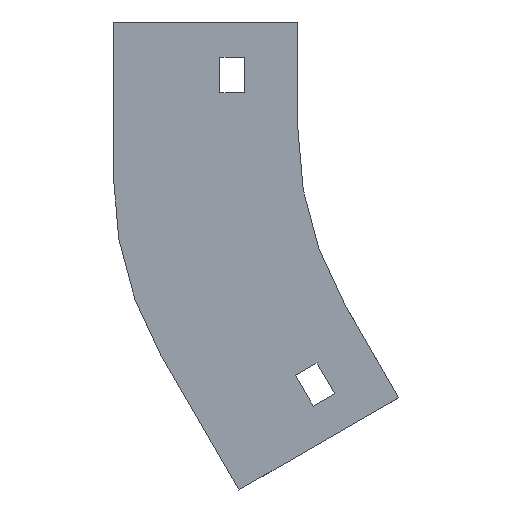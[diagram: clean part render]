
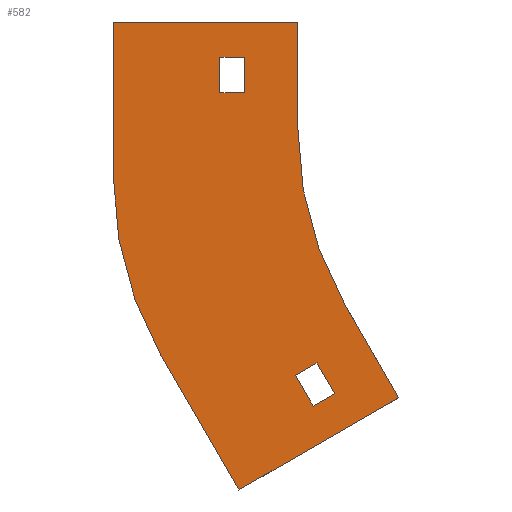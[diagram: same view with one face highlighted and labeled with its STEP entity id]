
A CAD part, left-side view. The second image highlights one B-rep face of the part: STEP entity #582.
In plain terms, the highlighted planar face has unit normal (-1, 0, 0).
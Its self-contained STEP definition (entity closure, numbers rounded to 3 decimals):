
#1 = VERTEX_POINT ( 'NONE', #563 ) ;
#7 = ORIENTED_EDGE ( 'NONE', *, *, #16, .T. ) ;
#14 = VERTEX_POINT ( 'NONE', #1224 ) ;
#16 = EDGE_CURVE ( 'NONE', #413, #615, #158, .T. ) ;
#28 = CARTESIAN_POINT ( 'NONE',  ( -302., -4.345, -108.321 ) ) ;
#68 = VECTOR ( 'NONE', #594, 1000. ) ;
#75 = EDGE_CURVE ( 'NONE', #431, #965, #166, .T. ) ;
#81 = ORIENTED_EDGE ( 'NONE', *, *, #187, .T. ) ;
#87 = CARTESIAN_POINT ( 'NONE',  ( -302., 52., 0. ) ) ;
#100 = LINE ( 'NONE', #560, #1124 ) ;
#111 = VECTOR ( 'NONE', #856, 1000. ) ;
#152 = EDGE_CURVE ( 'NONE', #279, #1371, #195, .T. ) ;
#158 = LINE ( 'NONE', #500, #68 ) ;
#165 = ORIENTED_EDGE ( 'NONE', *, *, #918, .T. ) ;
#166 = LINE ( 'NONE', #793, #422 ) ;
#168 = EDGE_CURVE ( 'NONE', #1, #710, #1379, .T. ) ;
#171 = DIRECTION ( 'NONE',  ( 1., 0., 0. ) ) ;
#176 = VECTOR ( 'NONE', #1278, 1000. ) ;
#180 = PLANE ( 'NONE',  #618 ) ;
#187 = EDGE_CURVE ( 'NONE', #615, #437, #948, .T. ) ;
#193 = VERTEX_POINT ( 'NONE', #87 ) ;
#194 = VECTOR ( 'NONE', #541, 1000. ) ;
#195 = LINE ( 'NONE', #623, #751 ) ;
#199 = CIRCLE ( 'NONE', #390, 100. ) ;
#228 = EDGE_CURVE ( 'NONE', #437, #14, #1360, .T. ) ;
#246 = VECTOR ( 'NONE', #525, 1000. ) ;
#255 = DIRECTION ( 'NONE',  ( 0., -0.5, -0.866 ) ) ;
#271 = ORIENTED_EDGE ( 'NONE', *, *, #317, .F. ) ;
#279 = VERTEX_POINT ( 'NONE', #1391 ) ;
#317 = EDGE_CURVE ( 'NONE', #530, #279, #344, .T. ) ;
#324 = CARTESIAN_POINT ( 'NONE',  ( -302., 0.655, -99.66 ) ) ;
#326 = ORIENTED_EDGE ( 'NONE', *, *, #531, .F. ) ;
#327 = CARTESIAN_POINT ( 'NONE',  ( -302., 0., -30. ) ) ;
#342 = CARTESIAN_POINT ( 'NONE',  ( -302., 15., -10. ) ) ;
#344 = LINE ( 'NONE', #1200, #111 ) ;
#355 = CARTESIAN_POINT ( 'NONE',  ( -302., 15., -20. ) ) ;
#358 = VECTOR ( 'NONE', #661, 1000. ) ;
#377 = EDGE_CURVE ( 'NONE', #965, #1, #697, .T. ) ;
#378 = DIRECTION ( 'NONE',  ( 0., -0.866, 0.5 ) ) ;
#380 = CARTESIAN_POINT ( 'NONE',  ( -302., 38.603, -93.933 ) ) ;
#390 = AXIS2_PLACEMENT_3D ( 'NONE', #512, #171, #1168 ) ;
#402 = FACE_OUTER_BOUND ( 'NONE', #875, .T. ) ;
#404 = DIRECTION ( 'NONE',  ( 0., 1., 0. ) ) ;
#409 = DIRECTION ( 'NONE',  ( 0., 0., 1. ) ) ;
#413 = VERTEX_POINT ( 'NONE', #1240 ) ;
#417 = ORIENTED_EDGE ( 'NONE', *, *, #1133, .F. ) ;
#422 = VECTOR ( 'NONE', #255, 1000. ) ;
#424 = FACE_BOUND ( 'NONE', #569, .T. ) ;
#431 = VERTEX_POINT ( 'NONE', #1342 ) ;
#437 = VERTEX_POINT ( 'NONE', #355 ) ;
#451 = ORIENTED_EDGE ( 'NONE', *, *, #1111, .F. ) ;
#470 = VERTEX_POINT ( 'NONE', #834 ) ;
#500 = CARTESIAN_POINT ( 'NONE',  ( -302., 22., -10. ) ) ;
#502 = DIRECTION ( 'NONE',  ( 0., 0., 1. ) ) ;
#505 = FACE_BOUND ( 'NONE', #1005, .T. ) ;
#506 = ORIENTED_EDGE ( 'NONE', *, *, #526, .F. ) ;
#512 = CARTESIAN_POINT ( 'NONE',  ( -302., -48., -43.933 ) ) ;
#525 = DIRECTION ( 'NONE',  ( 0., 0.5, 0.866 ) ) ;
#526 = EDGE_CURVE ( 'NONE', #1371, #470, #199, .T. ) ;
#530 = VERTEX_POINT ( 'NONE', #632 ) ;
#531 = EDGE_CURVE ( 'NONE', #835, #530, #1040, .T. ) ;
#541 = DIRECTION ( 'NONE',  ( 0., 0.866, -0.5 ) ) ;
#557 = ORIENTED_EDGE ( 'NONE', *, *, #377, .F. ) ;
#560 = CARTESIAN_POINT ( 'NONE',  ( -302., 52., 0. ) ) ;
#563 = CARTESIAN_POINT ( 'NONE',  ( -302., -10.407, -104.821 ) ) ;
#569 = EDGE_LOOP ( 'NONE', ( #7, #81, #1333, #165 ) ) ;
#582 = ADVANCED_FACE ( 'NONE', ( #424, #402, #505 ), #180, .T. ) ;
#594 = DIRECTION ( 'NONE',  ( 0., -1., 0. ) ) ;
#595 = ORIENTED_EDGE ( 'NONE', *, *, #152, .F. ) ;
#605 = CARTESIAN_POINT ( 'NONE',  ( -302., 22., -10. ) ) ;
#615 = VERTEX_POINT ( 'NONE', #342 ) ;
#618 = AXIS2_PLACEMENT_3D ( 'NONE', #928, #940, #409 ) ;
#623 = CARTESIAN_POINT ( 'NONE',  ( -302., 16.636, -131.981 ) ) ;
#632 = CARTESIAN_POINT ( 'NONE',  ( -302., -28.397, -105.981 ) ) ;
#661 = DIRECTION ( 'NONE',  ( 0., 0., 1. ) ) ;
#668 = CARTESIAN_POINT ( 'NONE',  ( -302., 0., 0. ) ) ;
#697 = LINE ( 'NONE', #28, #992 ) ;
#710 = VERTEX_POINT ( 'NONE', #986 ) ;
#727 = ORIENTED_EDGE ( 'NONE', *, *, #168, .F. ) ;
#732 = CARTESIAN_POINT ( 'NONE',  ( -302., -13.397, -80. ) ) ;
#747 = LINE ( 'NONE', #668, #1305 ) ;
#751 = VECTOR ( 'NONE', #1178, 1000. ) ;
#764 = DIRECTION ( 'NONE',  ( 0., -1., 0. ) ) ;
#793 = CARTESIAN_POINT ( 'NONE',  ( -302., -4.345, -108.321 ) ) ;
#810 = LINE ( 'NONE', #324, #194 ) ;
#834 = CARTESIAN_POINT ( 'NONE',  ( -302., 52., -43.933 ) ) ;
#835 = VERTEX_POINT ( 'NONE', #1002 ) ;
#856 = DIRECTION ( 'NONE',  ( 0., 0.866, -0.5 ) ) ;
#860 = LINE ( 'NONE', #1289, #358 ) ;
#875 = EDGE_LOOP ( 'NONE', ( #1189, #417, #506, #595, #271, #326, #1303, #451 ) ) ;
#884 = VERTEX_POINT ( 'NONE', #1021 ) ;
#918 = EDGE_CURVE ( 'NONE', #14, #413, #945, .T. ) ;
#928 = CARTESIAN_POINT ( 'NONE',  ( -302., -100., -30. ) ) ;
#929 = VECTOR ( 'NONE', #1055, 1000. ) ;
#940 = DIRECTION ( 'NONE',  ( -1., 0., 0. ) ) ;
#945 = LINE ( 'NONE', #605, #1383 ) ;
#948 = LINE ( 'NONE', #1056, #176 ) ;
#965 = VERTEX_POINT ( 'NONE', #1152 ) ;
#986 = CARTESIAN_POINT ( 'NONE',  ( -302., -5.407, -96.16 ) ) ;
#992 = VECTOR ( 'NONE', #378, 1000. ) ;
#1002 = CARTESIAN_POINT ( 'NONE',  ( -302., -13.397, -80. ) ) ;
#1005 = EDGE_LOOP ( 'NONE', ( #727, #557, #1166, #1287 ) ) ;
#1019 = CARTESIAN_POINT ( 'NONE',  ( -302., -100., -30. ) ) ;
#1021 = CARTESIAN_POINT ( 'NONE',  ( -302., 0., 0. ) ) ;
#1037 = CARTESIAN_POINT ( 'NONE',  ( -302., -10.407, -104.821 ) ) ;
#1040 = LINE ( 'NONE', #732, #929 ) ;
#1054 = VECTOR ( 'NONE', #404, 1000. ) ;
#1055 = DIRECTION ( 'NONE',  ( 0., -0.5, -0.866 ) ) ;
#1056 = CARTESIAN_POINT ( 'NONE',  ( -302., 15., -10. ) ) ;
#1074 = CIRCLE ( 'NONE', #1175, 100. ) ;
#1094 = DIRECTION ( 'NONE',  ( 0., 0., -1. ) ) ;
#1111 = EDGE_CURVE ( 'NONE', #884, #1142, #747, .T. ) ;
#1121 = EDGE_CURVE ( 'NONE', #193, #884, #100, .T. ) ;
#1124 = VECTOR ( 'NONE', #764, 1000. ) ;
#1133 = EDGE_CURVE ( 'NONE', #470, #193, #860, .T. ) ;
#1142 = VERTEX_POINT ( 'NONE', #327 ) ;
#1152 = CARTESIAN_POINT ( 'NONE',  ( -302., -4.345, -108.321 ) ) ;
#1159 = DIRECTION ( 'NONE',  ( 0., 0., 1. ) ) ;
#1166 = ORIENTED_EDGE ( 'NONE', *, *, #75, .F. ) ;
#1168 = DIRECTION ( 'NONE',  ( 0., 0., -1. ) ) ;
#1175 = AXIS2_PLACEMENT_3D ( 'NONE', #1019, #1180, #502 ) ;
#1178 = DIRECTION ( 'NONE',  ( 0., 0.5, 0.866 ) ) ;
#1180 = DIRECTION ( 'NONE',  ( -1., 0., 0. ) ) ;
#1189 = ORIENTED_EDGE ( 'NONE', *, *, #1121, .F. ) ;
#1200 = CARTESIAN_POINT ( 'NONE',  ( -302., -28.397, -105.981 ) ) ;
#1224 = CARTESIAN_POINT ( 'NONE',  ( -302., 22., -20. ) ) ;
#1240 = CARTESIAN_POINT ( 'NONE',  ( -302., 22., -10. ) ) ;
#1278 = DIRECTION ( 'NONE',  ( 0., 0., -1. ) ) ;
#1287 = ORIENTED_EDGE ( 'NONE', *, *, #1384, .F. ) ;
#1289 = CARTESIAN_POINT ( 'NONE',  ( -302., 52., -43.933 ) ) ;
#1303 = ORIENTED_EDGE ( 'NONE', *, *, #1398, .F. ) ;
#1305 = VECTOR ( 'NONE', #1094, 1000. ) ;
#1333 = ORIENTED_EDGE ( 'NONE', *, *, #228, .T. ) ;
#1342 = CARTESIAN_POINT ( 'NONE',  ( -302., 0.655, -99.66 ) ) ;
#1360 = LINE ( 'NONE', #1368, #1054 ) ;
#1368 = CARTESIAN_POINT ( 'NONE',  ( -302., 22., -20. ) ) ;
#1371 = VERTEX_POINT ( 'NONE', #380 ) ;
#1379 = LINE ( 'NONE', #1037, #246 ) ;
#1383 = VECTOR ( 'NONE', #1159, 1000. ) ;
#1384 = EDGE_CURVE ( 'NONE', #710, #431, #810, .T. ) ;
#1391 = CARTESIAN_POINT ( 'NONE',  ( -302., 16.636, -131.981 ) ) ;
#1398 = EDGE_CURVE ( 'NONE', #1142, #835, #1074, .T. ) ;
